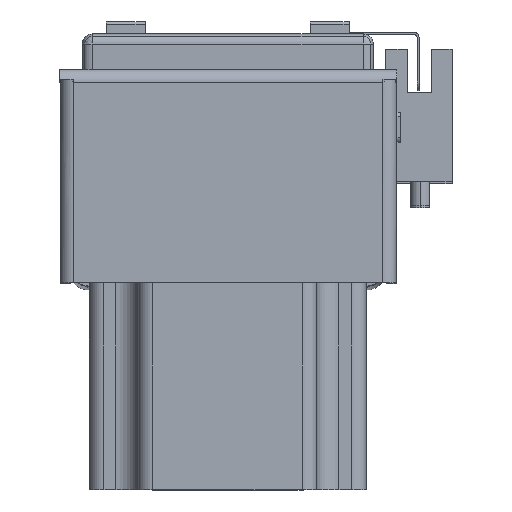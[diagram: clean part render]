
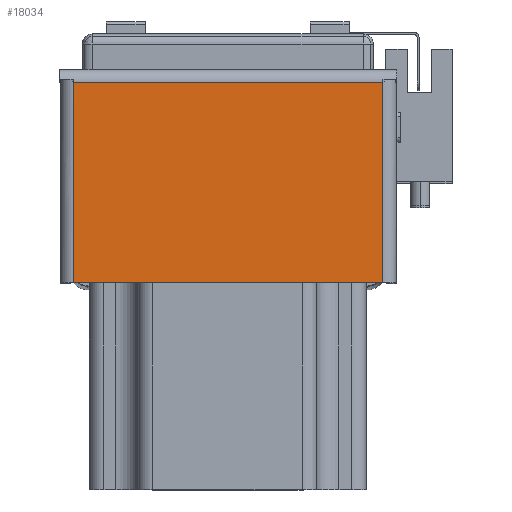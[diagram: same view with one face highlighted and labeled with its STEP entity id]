
A CAD part, top view. The second image highlights one B-rep face of the part: STEP entity #18034.
In plain terms, the highlighted planar face has unit normal (0, 0, 1) as drawn and (1, 0, 0) by its records, which use the part's own axes.
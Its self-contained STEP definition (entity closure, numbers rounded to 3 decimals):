
#274 = EDGE_CURVE ( 'NONE', #9235, #9257, #8064, .T. ) ;
#311 = EDGE_CURVE ( 'NONE', #9240, #9229, #8166, .T. ) ;
#316 = EDGE_CURVE ( 'NONE', #9257, #9240, #8274, .T. ) ;
#318 = EDGE_CURVE ( 'NONE', #9235, #9229, #8198, .T. ) ;
#5246 = AXIS2_PLACEMENT_3D ( 'NONE', #6215, #6218, #6216 ) ;
#6215 = CARTESIAN_POINT ( 'NONE',  ( 2., 42., -32.6 ) ) ;
#6216 = DIRECTION ( 'NONE',  ( 0., 0., 1. ) ) ;
#6218 = DIRECTION ( 'NONE',  ( -1., 0., 0. ) ) ;
#6220 = PLANE ( 'NONE',  #5246 ) ;
#8064 = LINE ( 'NONE', #14588, #8106 ) ;
#8106 = VECTOR ( 'NONE', #14581, 1000. ) ;
#8166 = LINE ( 'NONE', #14741, #8264 ) ;
#8188 = VECTOR ( 'NONE', #14744, 1000. ) ;
#8192 = VECTOR ( 'NONE', #14739, 1000. ) ;
#8198 = LINE ( 'NONE', #14740, #8192 ) ;
#8264 = VECTOR ( 'NONE', #14719, 1000. ) ;
#8274 = LINE ( 'NONE', #14742, #8188 ) ;
#9229 = VERTEX_POINT ( 'NONE', #12848 ) ;
#9235 = VERTEX_POINT ( 'NONE', #12833 ) ;
#9240 = VERTEX_POINT ( 'NONE', #12830 ) ;
#9257 = VERTEX_POINT ( 'NONE', #12827 ) ;
#11947 = EDGE_LOOP ( 'NONE', ( #23201, #30137, #30109, #30123 ) ) ;
#12827 = CARTESIAN_POINT ( 'NONE',  ( 2., 41.263, 31.863 ) ) ;
#12830 = CARTESIAN_POINT ( 'NONE',  ( 2., 0., 31.863 ) ) ;
#12833 = CARTESIAN_POINT ( 'NONE',  ( 2., 41.263, -31.863 ) ) ;
#12848 = CARTESIAN_POINT ( 'NONE',  ( 2., 0., -31.863 ) ) ;
#14581 = DIRECTION ( 'NONE',  ( 0., 0., 1. ) ) ;
#14588 = CARTESIAN_POINT ( 'NONE',  ( 2., 41.263, -31.863 ) ) ;
#14719 = DIRECTION ( 'NONE',  ( 0., 0., -1. ) ) ;
#14739 = DIRECTION ( 'NONE',  ( 0., -1., 0. ) ) ;
#14740 = CARTESIAN_POINT ( 'NONE',  ( 2., 42., -31.863 ) ) ;
#14741 = CARTESIAN_POINT ( 'NONE',  ( 2., 0., -32.6 ) ) ;
#14742 = CARTESIAN_POINT ( 'NONE',  ( 2., 42., 31.863 ) ) ;
#14744 = DIRECTION ( 'NONE',  ( 0., -1., 0. ) ) ;
#18034 = ADVANCED_FACE ( 'NONE', ( #21076 ), #6220, .F. ) ;
#21076 = FACE_OUTER_BOUND ( 'NONE', #11947, .T. ) ;
#23201 = ORIENTED_EDGE ( 'NONE', *, *, #274, .T. ) ;
#30109 = ORIENTED_EDGE ( 'NONE', *, *, #311, .T. ) ;
#30123 = ORIENTED_EDGE ( 'NONE', *, *, #318, .F. ) ;
#30137 = ORIENTED_EDGE ( 'NONE', *, *, #316, .T. ) ;
